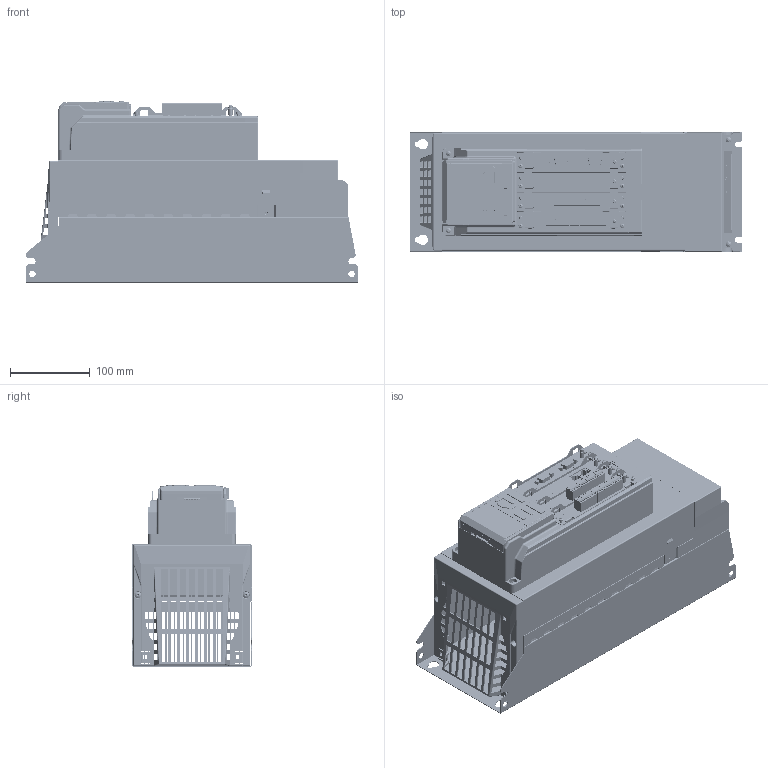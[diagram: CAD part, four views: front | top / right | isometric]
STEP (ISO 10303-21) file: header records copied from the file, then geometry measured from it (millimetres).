
FILE_DESCRIPTION((''),'2;1');
FILE_NAME('VH6-4022','2021-11-15T16:56:02',('PC'),(''),'CREO PARAMETRIC BY PTC INC, 2019010','CREO PARAMETRIC BY PTC INC, 2019010','');
FILE_SCHEMA(('CONFIG_CONTROL_DESIGN'));
Products named in the file (1): VH6-4022
Bounding box: 417 x 150.59 x 228 mm (x, y, z)
Surface area: 957323.8 mm2 (no closed solid volume)
Topology: 0 solids, 13991 shells, 13991 faces, 77041 edges, 76838 vertices
Faces by surface type: plane 4809, extrusion 3114, bspline 2683, cylinder 2649, torus 412, sphere 183, cone 141
Entity records: 892654 total; most frequent: CARTESIAN_POINT 369288, DIRECTION 79483, VERTEX_POINT 76834, ORIENTED_EDGE 76834, EDGE_CURVE 76834, VECTOR 44307, LINE 41193, B_SPLINE_CURVE_WITH_KNOTS 29361
